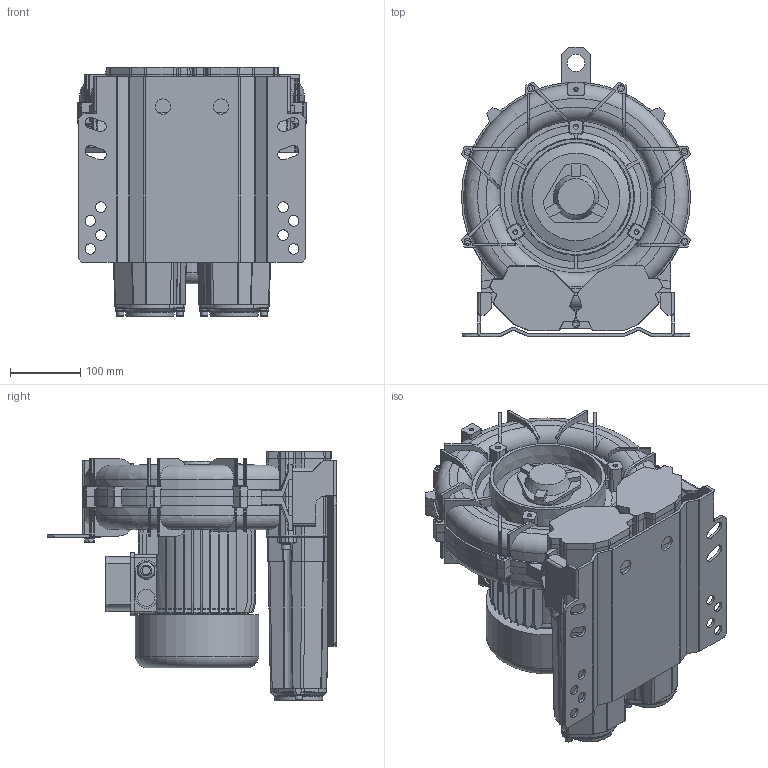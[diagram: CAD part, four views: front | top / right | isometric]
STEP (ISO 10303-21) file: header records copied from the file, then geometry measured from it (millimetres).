
FILE_DESCRIPTION (( 'STEP AP203' ), '1' );
FILE_NAME ('STP-L_e_05_MS_MOR_IE3WR_90_1.5kW-3_25-00.step', '2025-04-30T09:49:44', ( '' ), ( '' ), 'SwSTEP 2.0', 'SolidWorks 2024', '' );
FILE_SCHEMA (( 'CONFIG_CONTROL_DESIGN' ));
Products named in the file (1): STP-L_e_05_MS_MOR_IE3WR_90_1.5kW-3_25-00
Bounding box: 327 x 412.5 x 355.9 mm (x, y, z)
Volume: 14841717.3 mm3; surface area: 1445129.5 mm2
Topology: 70 solids, 70 shells, 3099 faces, 8225 edges, 5262 vertices
Faces by surface type: plane 1527, cylinder 801, cone 345, bspline 222, torus 204
Full cylindrical faces by diameter (mm): 4 x8, 4.917 x8, 5 x10, 5.5 x4, 6 x16, 6.4 x16, 6.8 x3, 8 x5, 8.4 x5, 8.5 x5, 10 x32, 12 x1, 13 x10, 14 x1, 15 x8, 18 x2, 20 x2, 22 x2, 24 x2, 25 x1, 57 x2, 73 x2, 140 x1, 146 x1, 176 x1
Entity records: 101007 total; most frequent: CARTESIAN_POINT 27863, ORIENTED_EDGE 15440, DIRECTION 14580, EDGE_CURVE 7720, AXIS2_PLACEMENT_3D 5255, VERTEX_POINT 5136, VECTOR 4070, LINE 4070
